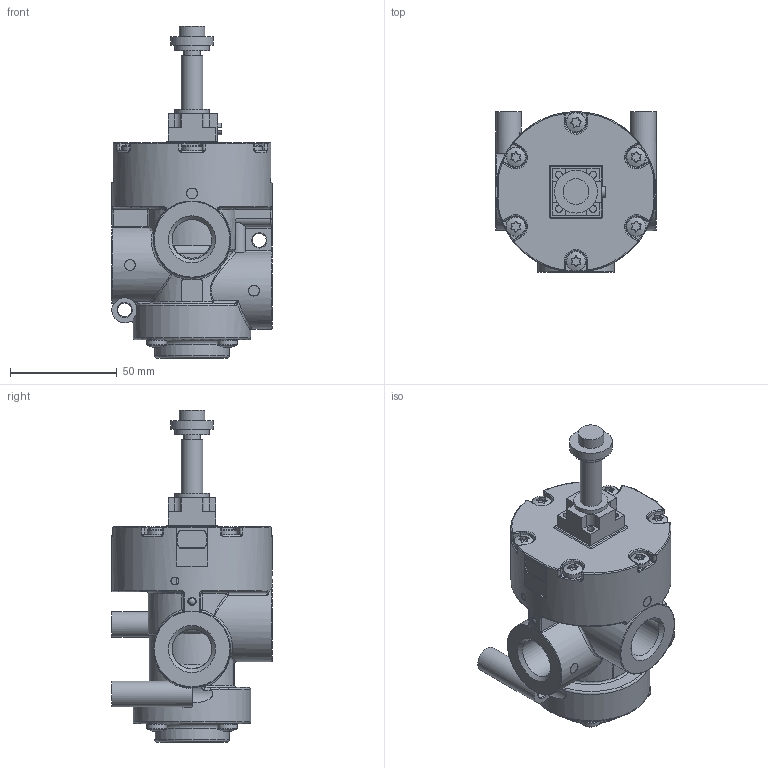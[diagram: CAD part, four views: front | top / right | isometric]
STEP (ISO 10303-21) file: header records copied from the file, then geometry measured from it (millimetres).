
FILE_DESCRIPTION(/* description */ ('EV.x VUOTO SOL.AUT./VUOTO 3/2 NC con MV'),/* implementation_level */ '2;1');
FILE_NAME(/* name */ 'C:\PNX_VAULTFOLDER\Area Tecnica\Disegni\VARIE-3D\Componenti\1900 (vuoto)\T772-V_32_0_1AC_MV.stp',/* time_stamp */ '2019-09-13T13:52:32+02:00',/* author */ ('maniean1'),/* organization */ ('Pneumax S.p.A.'),/* preprocessor_version */ 'ST-DEVELOPER v17',/* originating_system */ 'Autodesk Inventor 2019',/* authorisation */ '');
FILE_SCHEMA (('AUTOMOTIVE_DESIGN { 1 0 10303 214 3 1 1 }'));
Products named in the file (1): T772/V.32.0.1AC.MV
Bounding box: 75 x 75 x 155.3 mm (x, y, z)
Volume: 297259.4 mm3; surface area: 53792.9 mm2
Topology: 1 solids, 46 shells, 1400 faces, 3382 edges, 2039 vertices
Faces by surface type: cylinder 561, plane 390, torus 216, sphere 124, bspline 99, cone 10
Full cylindrical faces by diameter (mm): 3.15 x4, 3.2 x3, 3.7 x1, 4.1 x10, 5 x10, 5.2 x6, 5.25 x6, 6.5 x2, 8 x1, 9.25 x10, 10 x1, 12 x3, 16 x2, 18.631 x3, 20 x1, 35 x1, 55 x1, 75 x1
Entity records: 48881 total; most frequent: CARTESIAN_POINT 15247, DIRECTION 7073, ORIENTED_EDGE 6590, EDGE_CURVE 3295, AXIS2_PLACEMENT_3D 2999, VERTEX_POINT 2039, CIRCLE 1636, EDGE_LOOP 1468
